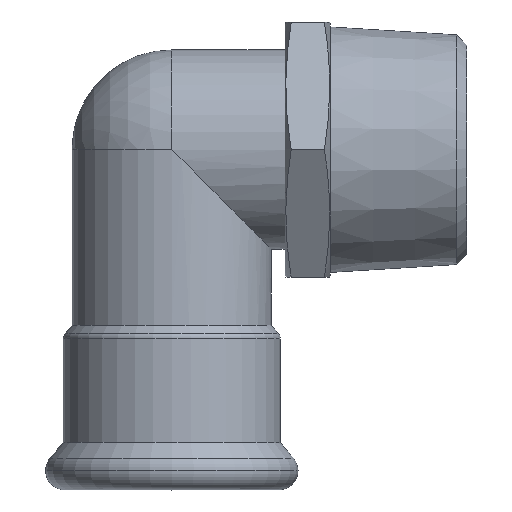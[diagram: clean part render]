
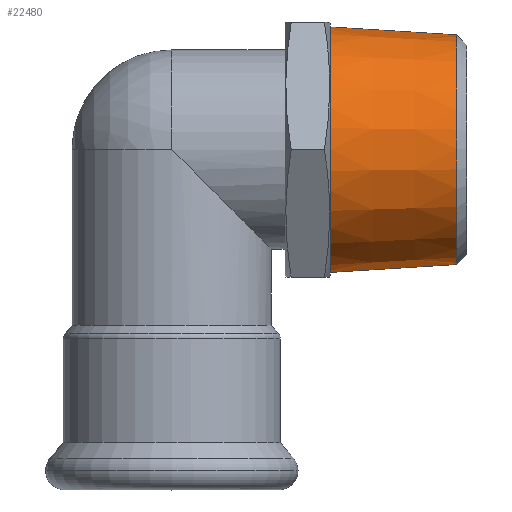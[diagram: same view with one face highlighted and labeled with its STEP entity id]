
A CAD part, top view. The second image highlights one B-rep face of the part: STEP entity #22480.
In plain terms, the highlighted conical face has half-angle 3.576 degrees and reference radius 21.65 mm.
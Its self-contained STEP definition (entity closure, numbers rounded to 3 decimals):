
#22010=CARTESIAN_POINT('',(-260.511,162.522,
0.));
#22020=DIRECTION('',(-1.,0.,0.));
#22030=DIRECTION('',(0.,1.,0.));
#22040=AXIS2_PLACEMENT_3D('',#22010,#22020,#22030);
#22050=CIRCLE('',#22040,21.65);
#22060=CARTESIAN_POINT('',(-260.511,140.872,
0.));
#22070=VERTEX_POINT('',#22060);
#22080=CARTESIAN_POINT('',(-260.511,184.172,
0.));
#22090=VERTEX_POINT('',#22080);
#22120=EDGE_CURVE('',#22090,#22070,#22050,.T.);
#22170=CARTESIAN_POINT('',(-260.511,162.522,
0.));
#22180=DIRECTION('',(-1.,0.,0.));
#22190=DIRECTION('',(0.,1.,0.));
#22200=AXIS2_PLACEMENT_3D('',#22170,#22180,#22190);
#22210=CONICAL_SURFACE('',#22200,21.65,0.062);
#22220=CARTESIAN_POINT('',(-260.511,184.172,
0.));
#22230=DIRECTION('',(-0.998,0.062,
0.));
#22240=VECTOR('',#22230,1.);
#22250=LINE('',#22220,#22240);
#22260=CARTESIAN_POINT('',(-238.208,182.778,
0.));
#22270=VERTEX_POINT('',#22260);
#22280=EDGE_CURVE('',#22270,#22090,#22250,.T.);
#22290=ORIENTED_EDGE('',*,*,#22280,.F.);
#22300=ORIENTED_EDGE('',*,*,#22120,.F.);
#22310=CARTESIAN_POINT('',(-260.511,140.872,
0.));
#22320=DIRECTION('',(-0.998,-0.062,
0.));
#22330=VECTOR('',#22320,1.);
#22340=LINE('',#22310,#22330);
#22350=CARTESIAN_POINT('',(-238.208,142.266,
0.));
#22360=VERTEX_POINT('',#22350);
#22370=EDGE_CURVE('',#22360,#22070,#22340,.T.);
#22380=ORIENTED_EDGE('',*,*,#22370,.T.);
#22390=CARTESIAN_POINT('',(-238.208,162.522,
0.));
#22400=DIRECTION('',(-1.,0.,0.));
#22410=DIRECTION('',(0.,1.,0.));
#22420=AXIS2_PLACEMENT_3D('',#22390,#22400,#22410);
#22430=CIRCLE('',#22420,20.256);
#22440=EDGE_CURVE('',#22270,#22360,#22430,.T.);
#22450=ORIENTED_EDGE('',*,*,#22440,.T.);
#22460=EDGE_LOOP('',(#22450,#22380,#22300,#22290));
#22470=FACE_OUTER_BOUND('',#22460,.T.);
#22480=ADVANCED_FACE('',(#22470),#22210,.T.);
